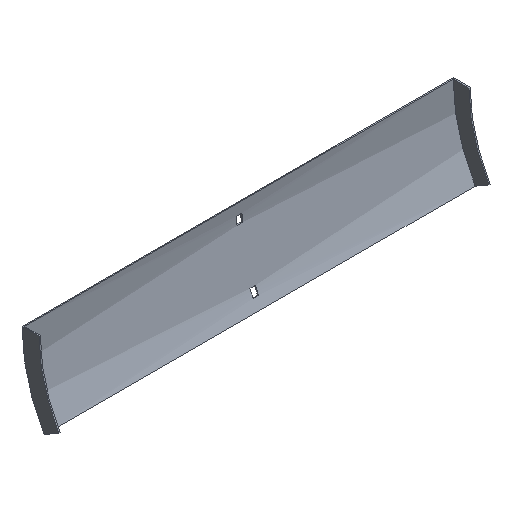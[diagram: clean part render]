
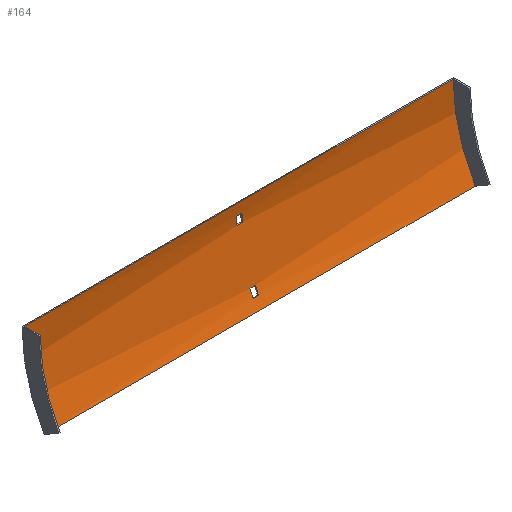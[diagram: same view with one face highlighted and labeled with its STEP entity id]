
A CAD part, isometric view. The second image highlights one B-rep face of the part: STEP entity #164.
In plain terms, the highlighted cylindrical face has radius 192.5 mm (diameter 385 mm), a partial arc.
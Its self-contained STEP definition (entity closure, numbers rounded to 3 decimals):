
#5 = CARTESIAN_POINT ( 'NONE',  ( 253.5, -17.785, -77.489 ) ) ;
#11 = CARTESIAN_POINT ( 'NONE',  ( -3.25, -17.785, -77.489 ) ) ;
#13 = ORIENTED_EDGE ( 'NONE', *, *, #428, .T. ) ;
#15 = VECTOR ( 'NONE', #456, 1000. ) ;
#18 = VERTEX_POINT ( 'NONE', #359 ) ;
#22 = ORIENTED_EDGE ( 'NONE', *, *, #515, .F. ) ;
#33 = ORIENTED_EDGE ( 'NONE', *, *, #118, .T. ) ;
#36 = CIRCLE ( 'NONE', #195, 192.5 ) ;
#44 = LINE ( 'NONE', #5, #274 ) ;
#47 = CARTESIAN_POINT ( 'NONE',  ( 3.25, -21.614, -85.671 ) ) ;
#51 = CARTESIAN_POINT ( 'NONE',  ( 3.25, -17.785, -77.489 ) ) ;
#66 = DIRECTION ( 'NONE',  ( -1., 0., 0. ) ) ;
#67 = EDGE_LOOP ( 'NONE', ( #318, #399, #581, #113 ) ) ;
#73 = EDGE_LOOP ( 'NONE', ( #249, #165, #13, #153 ) ) ;
#89 = EDGE_CURVE ( 'NONE', #216, #484, #138, .T. ) ;
#90 = DIRECTION ( 'NONE',  ( -1., 0., 0. ) ) ;
#94 = CIRCLE ( 'NONE', #173, 192.5 ) ;
#97 = CARTESIAN_POINT ( 'NONE',  ( 3.25, -194., 0. ) ) ;
#99 = CARTESIAN_POINT ( 'NONE',  ( 253.5, -194., 0. ) ) ;
#106 = DIRECTION ( 'NONE',  ( 1., 0., 0. ) ) ;
#108 = CIRCLE ( 'NONE', #440, 192.5 ) ;
#111 = LINE ( 'NONE', #286, #363 ) ;
#113 = ORIENTED_EDGE ( 'NONE', *, *, #236, .F. ) ;
#118 = EDGE_CURVE ( 'NONE', #580, #216, #166, .T. ) ;
#126 = VERTEX_POINT ( 'NONE', #11 ) ;
#132 = CARTESIAN_POINT ( 'NONE',  ( 253.5, -2.649, -21. ) ) ;
#138 = LINE ( 'NONE', #327, #521 ) ;
#139 = CYLINDRICAL_SURFACE ( 'NONE', #238, 192.5 ) ;
#140 = EDGE_CURVE ( 'NONE', #309, #369, #111, .T. ) ;
#143 = DIRECTION ( 'NONE',  ( 0., 0., 1. ) ) ;
#151 = EDGE_CURVE ( 'NONE', #190, #309, #94, .T. ) ;
#153 = ORIENTED_EDGE ( 'NONE', *, *, #262, .T. ) ;
#164 = ADVANCED_FACE ( 'NONE', ( #247, #202, #437 ), #139, .F. ) ;
#165 = ORIENTED_EDGE ( 'NONE', *, *, #460, .T. ) ;
#166 = CIRCLE ( 'NONE', #494, 192.5 ) ;
#173 = AXIS2_PLACEMENT_3D ( 'NONE', #97, #106, #336 ) ;
#184 = VECTOR ( 'NONE', #227, 1000. ) ;
#187 = DIRECTION ( 'NONE',  ( -1., 0., 0. ) ) ;
#188 = CARTESIAN_POINT ( 'NONE',  ( 253.5, -21.614, -85.671 ) ) ;
#190 = VERTEX_POINT ( 'NONE', #235 ) ;
#195 = AXIS2_PLACEMENT_3D ( 'NONE', #233, #606, #479 ) ;
#201 = CARTESIAN_POINT ( 'NONE',  ( -3.25, -194., 0. ) ) ;
#202 = FACE_OUTER_BOUND ( 'NONE', #445, .T. ) ;
#216 = VERTEX_POINT ( 'NONE', #516 ) ;
#224 = CARTESIAN_POINT ( 'NONE',  ( -3.25, -21.614, -85.671 ) ) ;
#227 = DIRECTION ( 'NONE',  ( -1., 0., 0. ) ) ;
#228 = DIRECTION ( 'NONE',  ( 1., 0., 0. ) ) ;
#233 = CARTESIAN_POINT ( 'NONE',  ( -252., -194., 0. ) ) ;
#234 = CARTESIAN_POINT ( 'NONE',  ( -3.25, -194., 0. ) ) ;
#235 = CARTESIAN_POINT ( 'NONE',  ( 3.25, -2.649, -21. ) ) ;
#236 = EDGE_CURVE ( 'NONE', #273, #190, #595, .T. ) ;
#238 = AXIS2_PLACEMENT_3D ( 'NONE', #99, #187, #341 ) ;
#240 = CIRCLE ( 'NONE', #448, 192.5 ) ;
#247 = FACE_BOUND ( 'NONE', #67, .T. ) ;
#249 = ORIENTED_EDGE ( 'NONE', *, *, #450, .T. ) ;
#254 = AXIS2_PLACEMENT_3D ( 'NONE', #591, #407, #461 ) ;
#262 = EDGE_CURVE ( 'NONE', #538, #537, #523, .T. ) ;
#273 = VERTEX_POINT ( 'NONE', #368 ) ;
#274 = VECTOR ( 'NONE', #228, 1000. ) ;
#282 = LINE ( 'NONE', #378, #184 ) ;
#286 = CARTESIAN_POINT ( 'NONE',  ( 253.5, -1.874, -12. ) ) ;
#309 = VERTEX_POINT ( 'NONE', #497 ) ;
#310 = ORIENTED_EDGE ( 'NONE', *, *, #89, .T. ) ;
#318 = ORIENTED_EDGE ( 'NONE', *, *, #492, .F. ) ;
#327 = CARTESIAN_POINT ( 'NONE',  ( 252., -1.5, 0. ) ) ;
#336 = DIRECTION ( 'NONE',  ( 0., 0., -1. ) ) ;
#339 = DIRECTION ( 'NONE',  ( -1., 0., 0. ) ) ;
#340 = VERTEX_POINT ( 'NONE', #224 ) ;
#341 = DIRECTION ( 'NONE',  ( 0., 0., 1. ) ) ;
#344 = CARTESIAN_POINT ( 'NONE',  ( -252., -1.5, 0. ) ) ;
#350 = DIRECTION ( 'NONE',  ( 1., 0., 0. ) ) ;
#359 = CARTESIAN_POINT ( 'NONE',  ( -252., -27.29, -96.25 ) ) ;
#363 = VECTOR ( 'NONE', #66, 1000. ) ;
#368 = CARTESIAN_POINT ( 'NONE',  ( -3.25, -2.649, -21. ) ) ;
#369 = VERTEX_POINT ( 'NONE', #557 ) ;
#378 = CARTESIAN_POINT ( 'NONE',  ( 252., -27.29, -96.25 ) ) ;
#390 = LINE ( 'NONE', #188, #506 ) ;
#394 = DIRECTION ( 'NONE',  ( -1., 0., 0. ) ) ;
#399 = ORIENTED_EDGE ( 'NONE', *, *, #140, .F. ) ;
#407 = DIRECTION ( 'NONE',  ( -1., 0., 0. ) ) ;
#421 = DIRECTION ( 'NONE',  ( 1., 0., 0. ) ) ;
#428 = EDGE_CURVE ( 'NONE', #126, #538, #44, .T. ) ;
#429 = CARTESIAN_POINT ( 'NONE',  ( 252., -194., 0. ) ) ;
#437 = FACE_BOUND ( 'NONE', #73, .T. ) ;
#439 = CARTESIAN_POINT ( 'NONE',  ( 252., -27.29, -96.25 ) ) ;
#440 = AXIS2_PLACEMENT_3D ( 'NONE', #201, #394, #575 ) ;
#445 = EDGE_LOOP ( 'NONE', ( #498, #22, #33, #310 ) ) ;
#448 = AXIS2_PLACEMENT_3D ( 'NONE', #234, #421, #607 ) ;
#450 = EDGE_CURVE ( 'NONE', #537, #340, #390, .T. ) ;
#456 = DIRECTION ( 'NONE',  ( 1., 0., 0. ) ) ;
#460 = EDGE_CURVE ( 'NONE', #340, #126, #240, .T. ) ;
#461 = DIRECTION ( 'NONE',  ( 0., 0., 1. ) ) ;
#479 = DIRECTION ( 'NONE',  ( 0., 0., 1. ) ) ;
#484 = VERTEX_POINT ( 'NONE', #344 ) ;
#492 = EDGE_CURVE ( 'NONE', #369, #273, #108, .T. ) ;
#494 = AXIS2_PLACEMENT_3D ( 'NONE', #429, #350, #143 ) ;
#497 = CARTESIAN_POINT ( 'NONE',  ( 3.25, -1.874, -12. ) ) ;
#498 = ORIENTED_EDGE ( 'NONE', *, *, #539, .F. ) ;
#506 = VECTOR ( 'NONE', #339, 1000. ) ;
#515 = EDGE_CURVE ( 'NONE', #580, #18, #282, .T. ) ;
#516 = CARTESIAN_POINT ( 'NONE',  ( 252., -1.5, 0. ) ) ;
#521 = VECTOR ( 'NONE', #90, 1000. ) ;
#523 = CIRCLE ( 'NONE', #254, 192.5 ) ;
#537 = VERTEX_POINT ( 'NONE', #47 ) ;
#538 = VERTEX_POINT ( 'NONE', #51 ) ;
#539 = EDGE_CURVE ( 'NONE', #18, #484, #36, .T. ) ;
#557 = CARTESIAN_POINT ( 'NONE',  ( -3.25, -1.874, -12. ) ) ;
#575 = DIRECTION ( 'NONE',  ( 0., 0., 1. ) ) ;
#580 = VERTEX_POINT ( 'NONE', #439 ) ;
#581 = ORIENTED_EDGE ( 'NONE', *, *, #151, .F. ) ;
#591 = CARTESIAN_POINT ( 'NONE',  ( 3.25, -194., 0. ) ) ;
#595 = LINE ( 'NONE', #132, #15 ) ;
#606 = DIRECTION ( 'NONE',  ( 1., 0., 0. ) ) ;
#607 = DIRECTION ( 'NONE',  ( 0., 0., -1. ) ) ;
